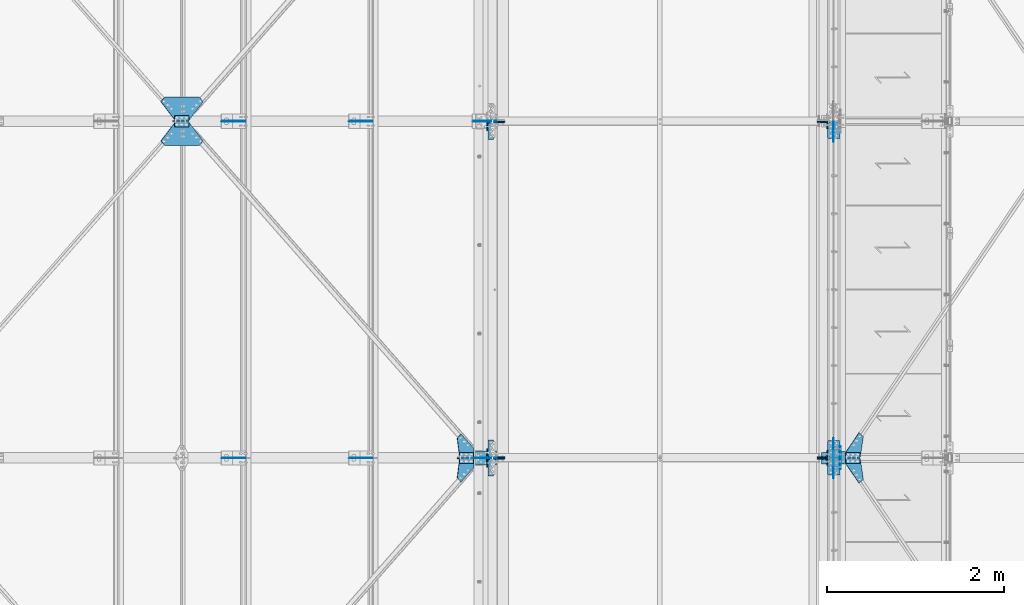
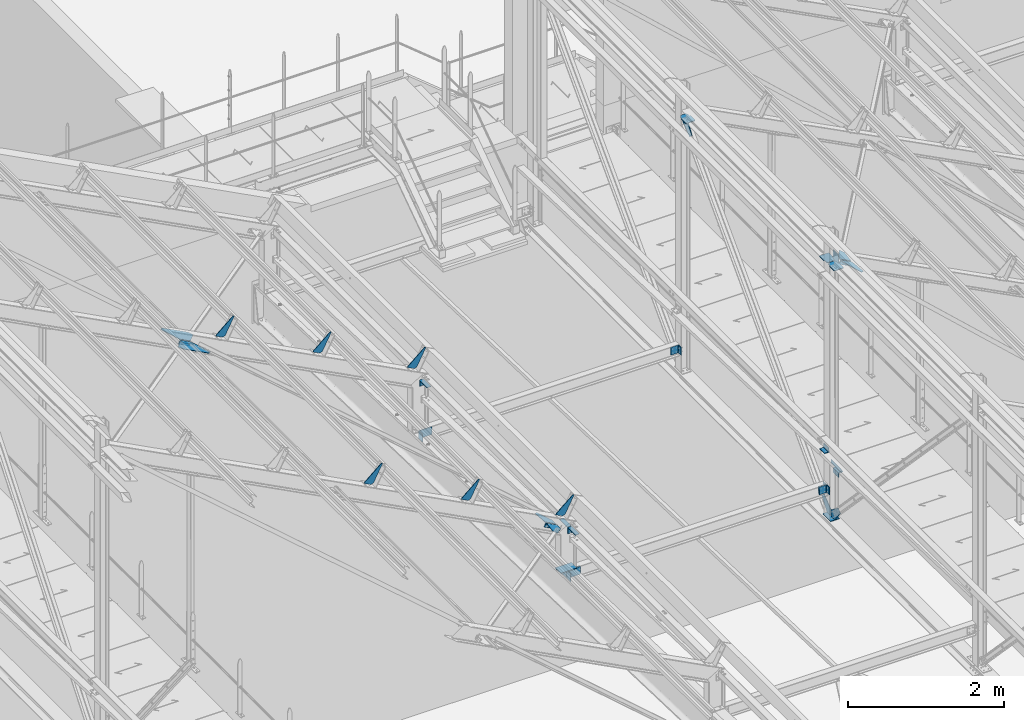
# One storey, part 90 of 362: 27 beams, 12 members, 34 elements without a shape of their own.
"""IFC2X3 building model written with IfcOpenShell, lengths in millimetres."""

import ifcopenshell
import ifcopenshell.guid

model = None  # the IFC model being written
_history = None  # IfcOwnerHistory: only IFC2X3 demands one
_inside = {}  # id of a spatial element -> (the spatial element, [elements in it])
_under = {}  # id of a project, library or spatial element -> (it, [spatial elements below it])
_declared = {}  # id of a project -> (the project, [libraries it declares])
_typed = {}  # id of a type object -> (the type object, [elements of that type])
_made_of = {}  # id of a material, layer set ... -> (it, [elements and type objects made of it])


def new_model(schema):
    """Start an empty IFC model of exactly this schema.

    Asked for "IFC4X3", IfcOpenShell would pick the latest addendum, in which some entities
    have other attributes; the version numbers below select the first issue.
    IFC2X3 requires an IfcOwnerHistory on every rooted entity: one is made here for all.
    """
    global model, _history
    if schema == "IFC4X3":
        model = ifcopenshell.file(schema_version=(4, 3, 0, 0))
    else:
        model = ifcopenshell.file(schema=schema)
    _inside.clear()
    _under.clear()
    _declared.clear()
    _typed.clear()
    _made_of.clear()
    _history = None
    if model.schema == "IFC2X3":
        org = make("IfcOrganization", Name="unknown")
        user = make(
            "IfcPersonAndOrganization",
            ThePerson=make("IfcPerson", FamilyName="unknown"),
            TheOrganization=org,
        )
        app = make(
            "IfcApplication",
            ApplicationDeveloper=org,
            Version="unknown",
            ApplicationFullName="unknown",
            ApplicationIdentifier="unknown",
        )
        _history = make(
            "IfcOwnerHistory",
            OwningUser=user,
            OwningApplication=app,
            ChangeAction="ADDED",
            CreationDate=0,
        )
    return model


def make(cls, **values):
    """One entity of the class cls with the attributes given. An attribute that is None is left unset."""
    return model.create_entity(
        cls, **{name: value for name, value in values.items() if value is not None}
    )


def rooted(cls, **values):
    """An entity with a GlobalId (a new one), such as an element, a storey or a relation."""
    return make(cls, GlobalId=ifcopenshell.guid.new(), OwnerHistory=_history, **values)


def si_unit(unit_type, name, prefix=None):
    """IfcSIUnit, for example si_unit("LENGTHUNIT", "METRE", prefix="MILLI")."""
    return make("IfcSIUnit", UnitType=unit_type, Prefix=prefix, Name=name)


def assignment(units):
    """IfcUnitAssignment: the units of a project."""
    return None if units is None else make("IfcUnitAssignment", Units=units)


def point(xyz):
    """IfcCartesianPoint."""
    return None if xyz is None else make("IfcCartesianPoint", Coordinates=xyz)


def direction(xyz):
    """IfcDirection."""
    return None if xyz is None else make("IfcDirection", DirectionRatios=xyz)


def frame(location, z_axis=None, x_axis=None):
    """IfcAxis2Placement3D, a coordinate frame: its origin and axes. An axis left out is left unset."""
    return make(
        "IfcAxis2Placement3D",
        Location=point(location),
        Axis=direction(z_axis),
        RefDirection=direction(x_axis),
    )


def frame_2d(location, x_axis=None):
    """IfcAxis2Placement2D, a coordinate frame in the plane: its origin and x axis."""
    return make(
        "IfcAxis2Placement2D", Location=point(location), RefDirection=direction(x_axis)
    )


def origin_with_axes():
    """The frame at (0, 0, 0) with the z axis (0, 0, 1) and the x axis (1, 0, 0) written out."""
    return frame((0.0, 0.0, 0.0), z_axis=(0.0, 0.0, 1.0), x_axis=(1.0, 0.0, 0.0))


def origin_2d_with_axis():
    """The frame at (0, 0) in the plane with the x axis (1, 0) written out."""
    return frame_2d((0.0, 0.0), x_axis=(1.0, 0.0))


def place(relative_to, where):
    """IfcLocalPlacement: puts the frame where relative to a parent placement (None: the world)."""
    return make(
        "IfcLocalPlacement", PlacementRelTo=relative_to, RelativePlacement=where
    )


def context(
    kind, dimensions, precision=None, world=None, true_north=None, identifier=None
):
    """IfcGeometricRepresentationContext, for example the 3D "Model" context."""
    return make(
        "IfcGeometricRepresentationContext",
        ContextIdentifier=identifier,
        ContextType=kind,
        CoordinateSpaceDimension=dimensions,
        Precision=precision,
        WorldCoordinateSystem=world,
        TrueNorth=true_north,
    )


def subcontext(parent, identifier, kind, view, scale=None):
    """IfcGeometricRepresentationSubContext, for example "Body" below "Model"."""
    return make(
        "IfcGeometricRepresentationSubContext",
        ContextIdentifier=identifier,
        ContextType=kind,
        ParentContext=parent,
        TargetScale=scale,
        TargetView=view,
    )


def project(units=None, contexts=None):
    """IfcProject with its units and contexts."""
    return rooted(
        "IfcProject",
        Name="project",
        RepresentationContexts=contexts,
        UnitsInContext=assignment(units),
    )


def spatial(cls, under=None, at=None, **own):
    """A site, building, storey or space (cls), placed at a placement, below another one or the project."""
    s = rooted(cls, ObjectPlacement=at, **own)
    if under is not None:
        _under.setdefault(under.id(), (under, []))[1].append(s)
    return s


def polyline(points):
    """IfcPolyline through the points."""
    return make("IfcPolyline", Points=[point(p) for p in points])


def circle_curve(where, radius):
    """IfcCircle in the frame where."""
    return make("IfcCircle", Position=where, Radius=radius)


def parameter(value):
    """IfcParameterValue: where a trimmed curve begins or ends, as a parameter of its basis curve."""
    return model.create_entity("IfcParameterValue", value)


def trimmed(basis, trim1, trim2, sense, master):
    """IfcTrimmedCurve: the piece of a basis curve between two trims."""
    return make(
        "IfcTrimmedCurve",
        BasisCurve=basis,
        Trim1=trim1,
        Trim2=trim2,
        SenseAgreement=sense,
        MasterRepresentation=master,
    )


def segment(curve, same_sense, transition):
    """IfcCompositeCurveSegment."""
    return make(
        "IfcCompositeCurveSegment",
        Transition=transition,
        SameSense=same_sense,
        ParentCurve=curve,
    )


def composite_curve(segments, self_intersect=None):
    """IfcCompositeCurve: segments joined end to end."""
    return make("IfcCompositeCurve", Segments=segments, SelfIntersect=self_intersect)


def profile(cls, at=None, kind="AREA", **sizes):
    """A parametric profile (cls). Its sizes go by their IFC names, for example OverallWidth=200.0."""
    return make(cls, ProfileType=kind, Position=at, **sizes)


def rectangle(**sizes):
    """IfcRectangleProfileDef."""
    return profile("IfcRectangleProfileDef", **sizes)


def l_section(**sizes):
    """IfcLShapeProfileDef."""
    return profile("IfcLShapeProfileDef", **sizes)


def outline(outer, holes=None, kind="AREA"):
    """IfcArbitraryClosedProfileDef: a profile drawn as a closed curve; with holes, ...WithVoids."""
    if holes is None:
        return make("IfcArbitraryClosedProfileDef", ProfileType=kind, OuterCurve=outer)
    return make(
        "IfcArbitraryProfileDefWithVoids",
        ProfileType=kind,
        OuterCurve=outer,
        InnerCurves=holes,
    )


def extrude(swept, where, along, depth):
    """IfcExtrudedAreaSolid: the profile swept, set in the frame where, extruded along a direction by depth."""
    return make(
        "IfcExtrudedAreaSolid",
        SweptArea=swept,
        Position=where,
        ExtrudedDirection=direction(along),
        Depth=depth,
    )


def shape(context_of_items, identifier, shape_type, items):
    """IfcShapeRepresentation: the items that make up one representation, for example the "Body"."""
    return make(
        "IfcShapeRepresentation",
        ContextOfItems=context_of_items,
        RepresentationIdentifier=identifier,
        RepresentationType=shape_type,
        Items=items,
    )


def material(Name=None, Category=None):
    """IfcMaterial."""
    return make("IfcMaterial", Name=Name, Category=Category)


def made_of(thing, what):
    """Note that an element or type object is made of a material, layer set ...; save() writes the relation."""
    if what is not None:
        _made_of.setdefault(what.id(), (what, []))[1].append(thing)
    return thing


def type_object(cls, material=None, **own):
    """A type object (cls), such as IfcWallType, which elements share."""
    return made_of(rooted(cls, **own), material)


def element(
    cls,
    number,
    at=None,
    inside=None,
    cuts=None,
    type_object=None,
    material=None,
    context=None,
    identifier="Body",
    shape_type=None,
    held_by="IfcProductDefinitionShape",
    body=None,
    shapes=None,
    **own,
):
    """One element of the class cls, such as IfcWall. Its Tag is "e" and its number.

    at: its placement. inside: the storey or other place that contains it. cuts: it is an
    opening in that element (IfcRelVoidsElement). A single representation is given by context,
    identifier, shape_type and body (its items); several are given by shapes. held_by: the class
    of the entity that holds the representations. save() writes the other relations.
    """
    e = rooted(cls, Tag="e%d" % number, ObjectPlacement=at, **own)
    if body is not None:
        shapes = [shape(context, identifier, shape_type, body)]
    if shapes is not None:
        e.Representation = make(held_by, Representations=shapes)
    if inside is not None:
        _inside.setdefault(inside.id(), (inside, []))[1].append(e)
    if cuts is not None:
        rooted(
            "IfcRelVoidsElement", RelatingBuildingElement=cuts, RelatedOpeningElement=e
        )
    if type_object is not None:
        _typed.setdefault(type_object.id(), (type_object, []))[1].append(e)
    return made_of(e, material)


def aggregate(whole, parts):
    """IfcRelAggregates: a whole, such as a stair, and the parts it consists of."""
    return rooted("IfcRelAggregates", RelatingObject=whole, RelatedObjects=parts)


def save(model, path):
    """Write the relations noted so far, then the file.

    IfcRelAggregates (storeys below a building ...), IfcRelContainedInSpatialStructure (elements
    in a storey), IfcRelDefinesByType, IfcRelAssociatesMaterial and IfcRelDeclares: one each for
    every whole, place, type object, material and project.
    """
    for whole, parts in _under.values():
        aggregate(whole, parts)
    for where, things in _inside.values():
        rooted(
            "IfcRelContainedInSpatialStructure",
            RelatedElements=things,
            RelatingStructure=where,
        )
    for kind, things in _typed.values():
        rooted("IfcRelDefinesByType", RelatedObjects=things, RelatingType=kind)
    for what, things in _made_of.values():
        rooted("IfcRelAssociatesMaterial", RelatedObjects=things, RelatingMaterial=what)
    for by, libraries in _declared.values():
        rooted("IfcRelDeclares", RelatingContext=by, RelatedDefinitions=libraries)
    model.write(path)


model = new_model("IFC2X3")

# Units and contexts
model_context = context("Model", 3, precision=1e-05, world=origin_with_axes())
body_context = subcontext(model_context, "Body", "Model", "MODEL_VIEW")
ifc_project = project(units=[si_unit("LENGTHUNIT", "METRE", prefix="MILLI"), si_unit("AREAUNIT", "SQUARE_METRE"), si_unit("VOLUMEUNIT", "CUBIC_METRE"), si_unit("MASSUNIT", "GRAM", prefix="KILO"), si_unit("TIMEUNIT", "SECOND"), si_unit("PLANEANGLEUNIT", "RADIAN"), si_unit("SOLIDANGLEUNIT", "STERADIAN"), si_unit("THERMODYNAMICTEMPERATUREUNIT", "DEGREE_CELSIUS"), si_unit("LUMINOUSINTENSITYUNIT", "LUMEN")], contexts=[model_context])

# Site, building, storey
site_placement = place(None, origin_with_axes())
site = spatial("IfcSite", under=ifc_project, at=site_placement, Name="Undefined", CompositionType="ELEMENT")
building_placement = place(site_placement, origin_with_axes())
building = spatial("IfcBuilding", under=site, at=building_placement, Name="Undefined", CompositionType="ELEMENT")
storey_placement = place(building_placement, origin_with_axes())
storey = spatial("IfcBuildingStorey", under=building, at=storey_placement, Name="Undefined", CompositionType="ELEMENT", Elevation=0.0)

# Assembly, beams
assembly_1_placement = place(storey_placement, origin_with_axes())
assembly_1 = element("IfcElementAssembly", 1, at=assembly_1_placement, inside=storey, Name="MONTANT", AssemblyPlace="NOTDEFINED", PredefinedType="NOTDEFINED")
ifc_material = material(Name="Undefined/S235-E24")
beam_type_1 = type_object("IfcBeamType", Name="TOLE8*138", PredefinedType="NOTDEFINED")
beam_1_placement = place(assembly_1_placement, frame((23470.0, 7597.25, 7360.0), z_axis=(-1.0, 0.0, 0.0), x_axis=(0.0, 0.0, -1.0)))
beam_1 = element("IfcBeam", 2, at=beam_1_placement, type_object=beam_type_1, material=ifc_material, Name="GOUSSET", ObjectType="TOLE8*138", context=body_context, shape_type="SweptSolid", body=[
    extrude(outline(polyline([(0.0, 0.0), (80.00000000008, 8.00355337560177e-11), (100.0, 20.0), (100.0, 97.25), (-79.536994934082, 233.207046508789), (-134.738418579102, 175.303649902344), (0.0, 0.0)])), frame((0.0, 0.0, -4.0), z_axis=(0.0, 0.0, 1.0), x_axis=(1.0, 0.0, 0.0)), (0.0, 0.0, 1.0), 8.0),
])
beam_2_placement = place(assembly_1_placement, frame((23470.0, 7700.0, 7260.0), z_axis=(-1.0, 0.0, 0.0), x_axis=(0.0, -1.0, 0.0)))
beam_2 = element("IfcBeam", 3, at=beam_2_placement, type_object=beam_type_1, material=ifc_material, Name="GOUSSET", ObjectType="TOLE8*138", context=body_context, shape_type="SweptSolid", body=[
    extrude(outline(polyline([(0.0, 0.0), (77.25, 0.0), (97.25, 20.0), (97.25, 100.0), (-78.0536499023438, 234.738433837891), (-135.957046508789, 179.537002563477), (0.0, 0.0)])), frame((0.0, 0.0, -4.0), z_axis=(0.0, 0.0, 1.0), x_axis=(1.0, 0.0, 0.0)), (0.0, 0.0, 1.0), 8.0),
])

# Assembly, beam
assembly_2_placement = place(storey_placement, origin_with_axes())
assembly_2 = element("IfcElementAssembly", 4, at=assembly_2_placement, inside=storey, AssemblyPlace="NOTDEFINED", PredefinedType="NOTDEFINED")
beam_type_2 = type_object("IfcBeamType", Name="L70*7", PredefinedType="NOTDEFINED")
beam_3_placement = place(assembly_2_placement, frame((23571.49994422, 7530.0, 7915.0), z_axis=(1.0, 0.0, 0.0), x_axis=(0.0, 1.0, 0.0)))
beam_3 = element("IfcBeam", 5, at=beam_3_placement, type_object=beam_type_2, material=ifc_material, Name="ATTACHE", ObjectType="L70*7", context=body_context, shape_type="SweptSolid", body=[
    extrude(l_section(Depth=70.0, Width=70.0, Thickness=7.0, FilletRadius=9.0, EdgeRadius=4.5, at=origin_2d_with_axis()), frame((140.0, 0.0, 0.0), z_axis=(-1.0, 0.0, 0.0), x_axis=(0.0, -1.0, 0.0)), (0.0, 0.0, 1.0), 140.0),
])
aggregate(assembly_2, [beam_3])

assembly_3_placement = place(storey_placement, origin_with_axes())
assembly_3 = element("IfcElementAssembly", 6, at=assembly_3_placement, inside=storey, AssemblyPlace="NOTDEFINED", PredefinedType="NOTDEFINED")
beam_4_placement = place(assembly_3_placement, frame((23368.5001163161, 7664.81291402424, 8349.41493629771), z_axis=(0.0, 0.0314135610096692, 0.999506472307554), x_axis=(0.0, -0.999506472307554, 0.031413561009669)))
beam_4 = element("IfcBeam", 7, at=beam_4_placement, type_object=beam_type_2, material=ifc_material, Name="ATTACHE", ObjectType="L70*7", context=body_context, shape_type="SweptSolid", body=[
    extrude(l_section(Depth=70.0, Width=70.0, Thickness=7.0, FilletRadius=9.0, EdgeRadius=4.5, at=origin_2d_with_axis()), frame((130.004127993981, 0.0, 9.02084851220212e-16), z_axis=(-1.0, 0.0, 0.0), x_axis=(0.0, -1.0, 0.0)), (0.0, 0.0, 1.0), 130.0),
])
aggregate(assembly_3, [beam_4])

assembly_4_placement = place(storey_placement, origin_with_axes())
assembly_4 = element("IfcElementAssembly", 8, at=assembly_4_placement, inside=storey, AssemblyPlace="NOTDEFINED", PredefinedType="NOTDEFINED")
beam_type_3 = type_object("IfcBeamType", Name="TOLE6*196", PredefinedType="NOTDEFINED")
beam_5_placement = place(assembly_4_placement, frame((19406.836386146, 7489.97764685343, 8548.85321339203), z_axis=(0.463528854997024, 6.99999093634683e-09, 0.886081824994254), x_axis=(0.0, 1.0, 0.0)))
beam_5 = element("IfcBeam", 9, at=beam_5_placement, type_object=beam_type_3, material=ifc_material, Name="GOUSSET", ObjectType="TOLE6*196", context=body_context, shape_type="SweptSolid", body=[
    extrude(outline(polyline([(0.0, 0.0), (96.5226516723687, -1.65528035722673e-10), (96.5226516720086, 180.000106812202), (-112.688667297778, 210.686050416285), (-162.033142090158, 161.036056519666), (0.0, 0.0)])), frame((0.0, 0.0, -3.0), z_axis=(0.0, 0.0, 1.0), x_axis=(1.0, 0.0, 0.0)), (0.0, 0.0, 1.0), 6.0),
])
aggregate(assembly_4, [beam_5])

assembly_5_placement = place(storey_placement, origin_with_axes())
assembly_5 = element("IfcElementAssembly", 10, at=assembly_5_placement, inside=storey, AssemblyPlace="NOTDEFINED", PredefinedType="NOTDEFINED")
beam_6_placement = place(assembly_5_placement, frame((19406.8363842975, 7613.49990180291, 8548.85321338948), z_axis=(0.463528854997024, 6.99999093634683e-09, 0.886081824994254), x_axis=(0.0, 1.0, 0.0)))
beam_6 = element("IfcBeam", 11, at=beam_6_placement, type_object=beam_type_3, material=ifc_material, Name="GOUSSET", ObjectType="TOLE6*196", context=body_context, shape_type="SweptSolid", body=[
    extrude(outline(polyline([(0.0, 0.0), (96.5224533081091, 8.87666828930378e-10), (258.555786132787, 161.036239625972), (209.211318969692, 210.686233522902), (-6.08049958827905e-07, 180.000106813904), (0.0, 0.0)])), frame((0.0, 0.0, -3.0), z_axis=(0.0, 0.0, 1.0), x_axis=(1.0, 0.0, 0.0)), (0.0, 0.0, 1.0), 6.0),
])
aggregate(assembly_5, [beam_6])

# Assembly, member
assembly_6_placement = place(storey_placement, origin_with_axes())
assembly_6 = element("IfcElementAssembly", 12, at=assembly_6_placement, inside=storey, AssemblyPlace="NOTDEFINED", PredefinedType="NOTDEFINED")
member_type_1 = type_object("IfcMemberType", Name="L60*6", PredefinedType="NOTDEFINED")
member_1_placement = place(assembly_6_placement, frame((23595.4976590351, 7567.00026493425, 11187.0657786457), z_axis=(0.0, -1.0, 0.0), x_axis=(0.887870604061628, 0.0, -0.460093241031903)))
member_1 = element("IfcMember", 13, at=member_1_placement, type_object=member_type_1, material=ifc_material, Name="ATTACHE", ObjectType="L60*6", context=body_context, shape_type="SweptSolid", body=[
    extrude(l_section(Depth=60.0, Width=60.0, Thickness=6.0, FilletRadius=8.0, EdgeRadius=4.0, at=origin_2d_with_axis()), frame((180.0, 0.0, 0.0), z_axis=(-1.0, 0.0, 0.0), x_axis=(0.0, -1.0, 0.0)), (0.0, 0.0, 1.0), 180.0),
])
aggregate(assembly_6, [member_1])

assembly_7_placement = place(storey_placement, origin_with_axes())
assembly_7 = element("IfcElementAssembly", 14, at=assembly_7_placement, inside=storey, AssemblyPlace="NOTDEFINED", PredefinedType="NOTDEFINED")
member_2_placement = place(assembly_7_placement, frame((23755.3143701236, 7633.00006280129, 11104.2490022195), z_axis=(0.0, 1.0, 0.0), x_axis=(-0.887870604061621, -1.29999898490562e-08, 0.460093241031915)))
member_2 = element("IfcMember", 15, at=member_2_placement, type_object=member_type_1, material=ifc_material, Name="ATTACHE", ObjectType="L60*6", context=body_context, shape_type="SweptSolid", body=[
    extrude(l_section(Depth=60.0, Width=60.0, Thickness=6.0, FilletRadius=8.0, EdgeRadius=4.0, at=origin_2d_with_axis()), frame((180.0, 0.0, 0.0), z_axis=(-1.0, 0.0, 0.0), x_axis=(0.0, -1.0, 0.0)), (0.0, 0.0, 1.0), 180.0),
])
aggregate(assembly_7, [member_2])

assembly_8_placement = place(storey_placement, origin_with_axes())
assembly_8 = element("IfcElementAssembly", 16, at=assembly_8_placement, inside=storey, AssemblyPlace="NOTDEFINED", PredefinedType="NOTDEFINED")
member_3_placement = place(assembly_8_placement, frame((16018.5622548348, 11366.5001509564, 10284.0892447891), z_axis=(0.0, -1.0, 0.0), x_axis=(0.886081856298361, 3.500000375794e-08, -0.463528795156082)))
member_3 = element("IfcMember", 17, at=member_3_placement, type_object=member_type_1, material=ifc_material, Name="ATTACHE", ObjectType="L60*6", context=body_context, shape_type="SweptSolid", body=[
    extrude(l_section(Depth=60.0, Width=60.0, Thickness=6.0, FilletRadius=8.0, EdgeRadius=4.0, at=origin_2d_with_axis()), frame((180.0, 0.0, 0.0), z_axis=(-1.0, 0.0, 0.0), x_axis=(0.0, -1.0, 0.0)), (0.0, 0.0, 1.0), 180.0),
])
aggregate(assembly_8, [member_3])

assembly_9_placement = place(storey_placement, origin_with_axes())
assembly_9 = element("IfcElementAssembly", 18, at=assembly_9_placement, inside=storey, AssemblyPlace="NOTDEFINED", PredefinedType="NOTDEFINED")
member_4_placement = place(assembly_9_placement, frame((16178.0569880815, 11433.49994843, 10200.6540620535), z_axis=(0.0, 1.0, 0.0), x_axis=(-0.886081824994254, 0.0, 0.463528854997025)))
member_4 = element("IfcMember", 19, at=member_4_placement, type_object=member_type_1, material=ifc_material, Name="ATTACHE", ObjectType="L60*6", context=body_context, shape_type="SweptSolid", body=[
    extrude(l_section(Depth=60.0, Width=60.0, Thickness=6.0, FilletRadius=8.0, EdgeRadius=4.0, at=origin_2d_with_axis()), frame((180.0, 0.0, 0.0), z_axis=(-1.0, 0.0, 0.0), x_axis=(0.0, -1.0, 0.0)), (0.0, 0.0, 1.0), 180.0),
])
aggregate(assembly_9, [member_4])

assembly_10_placement = place(storey_placement, origin_with_axes())
assembly_10 = element("IfcElementAssembly", 20, at=assembly_10_placement, inside=storey, AssemblyPlace="NOTDEFINED", PredefinedType="NOTDEFINED")
member_5_placement = place(assembly_10_placement, frame((19232.0450953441, 7566.50029561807, 8603.04770510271), z_axis=(0.0, -1.0, 0.0), x_axis=(0.886081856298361, 3.500000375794e-08, -0.463528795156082)))
member_5 = element("IfcMember", 21, at=member_5_placement, type_object=member_type_1, material=ifc_material, Name="ATTACHE", ObjectType="L60*6", context=body_context, shape_type="SweptSolid", body=[
    extrude(l_section(Depth=60.0, Width=60.0, Thickness=6.0, FilletRadius=8.0, EdgeRadius=4.0, at=origin_2d_with_axis()), frame((180.0, 0.0, 0.0), z_axis=(-1.0, 0.0, 0.0), x_axis=(0.0, -1.0, 0.0)), (0.0, 0.0, 1.0), 180.0),
])
aggregate(assembly_10, [member_5])

assembly_11_placement = place(storey_placement, origin_with_axes())
assembly_11 = element("IfcElementAssembly", 22, at=assembly_11_placement, inside=storey, AssemblyPlace="NOTDEFINED", PredefinedType="NOTDEFINED")
member_6_placement = place(assembly_11_placement, frame((19391.5398285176, 7633.49989982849, 8519.61252240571), z_axis=(0.0, 1.0, 0.0), x_axis=(-0.886081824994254, 0.0, 0.463528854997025)))
member_6 = element("IfcMember", 23, at=member_6_placement, type_object=member_type_1, material=ifc_material, Name="ATTACHE", ObjectType="L60*6", context=body_context, shape_type="SweptSolid", body=[
    extrude(l_section(Depth=60.0, Width=60.0, Thickness=6.0, FilletRadius=8.0, EdgeRadius=4.0, at=origin_2d_with_axis()), frame((180.0, 0.0, 0.0), z_axis=(-1.0, 0.0, 0.0), x_axis=(0.0, -1.0, 0.0)), (0.0, 0.0, 1.0), 180.0),
])
aggregate(assembly_11, [member_6])

# Assembly, beam
assembly_12_placement = place(storey_placement, origin_with_axes())
assembly_12 = element("IfcElementAssembly", 24, at=assembly_12_placement, inside=storey, Name="PANNE SHED", AssemblyPlace="NOTDEFINED", PredefinedType="NOTDEFINED")
beam_type_4 = type_object("IfcBeamType", Name="TOLE8*140", PredefinedType="NOTDEFINED")
beam_7_placement = place(assembly_12_placement, frame((19667.0878027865, 11400.0, 8923.94974997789), z_axis=(0.0, -1.0, 0.0), x_axis=(-0.886081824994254, 0.0, 0.463528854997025)))
beam_7 = element("IfcBeam", 25, at=beam_7_placement, type_object=beam_type_4, material=ifc_material, Name="RAIDISSEUR", ObjectType="TOLE8*140", context=body_context, shape_type="SweptSolid", body=[
    extrude(outline(polyline([(0.0, 0.0), (19.9999999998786, -3.63797880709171e-12), (140.000030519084, 299.999999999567), (140.000030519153, 319.999999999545), (30.0000147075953, 319.999999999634), (0.0, 290.0), (0.0, 0.0)])), frame((0.0, 0.0, -4.0), z_axis=(0.0, 0.0, 1.0), x_axis=(1.0, 0.0, 0.0)), (0.0, 0.0, 1.0), 8.0),
])
aggregate(assembly_12, [beam_7])

assembly_13_placement = place(storey_placement, origin_with_axes())
assembly_13 = element("IfcElementAssembly", 26, at=assembly_13_placement, inside=storey, Name="PANNE SHED", AssemblyPlace="NOTDEFINED", PredefinedType="NOTDEFINED")
beam_8_placement = place(assembly_13_placement, frame((18269.6614730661, 11400.0, 9654.97325100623), z_axis=(0.0, -1.0, 0.0), x_axis=(-0.886081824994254, 0.0, 0.463528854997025)))
beam_8 = element("IfcBeam", 27, at=beam_8_placement, type_object=beam_type_4, material=ifc_material, Name="RAIDISSEUR", ObjectType="TOLE8*140", context=body_context, shape_type="SweptSolid", body=[
    extrude(outline(polyline([(0.0, 0.0), (19.9999999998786, -3.63797880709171e-12), (140.000030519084, 299.999999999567), (140.000030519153, 319.999999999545), (30.0000147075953, 319.999999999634), (0.0, 290.0), (0.0, 0.0)])), frame((0.0, 0.0, -4.0), z_axis=(0.0, 0.0, 1.0), x_axis=(1.0, 0.0, 0.0)), (0.0, 0.0, 1.0), 8.0),
])
aggregate(assembly_13, [beam_8])

assembly_14_placement = place(storey_placement, origin_with_axes())
assembly_14 = element("IfcElementAssembly", 28, at=assembly_14_placement, inside=storey, Name="PANNE SHED", AssemblyPlace="NOTDEFINED", PredefinedType="NOTDEFINED")
beam_9_placement = place(assembly_14_placement, frame((16832.361407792, 11400.0, 10406.855553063), z_axis=(0.0, -1.0, 0.0), x_axis=(-0.886081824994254, 0.0, 0.463528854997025)))
beam_9 = element("IfcBeam", 29, at=beam_9_placement, type_object=beam_type_4, material=ifc_material, Name="RAIDISSEUR", ObjectType="TOLE8*140", context=body_context, shape_type="SweptSolid", body=[
    extrude(outline(polyline([(0.0, 0.0), (19.9999999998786, -3.63797880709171e-12), (140.000030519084, 299.999999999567), (140.000030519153, 319.999999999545), (30.0000147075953, 319.999999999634), (0.0, 290.0), (0.0, 0.0)])), frame((0.0, 0.0, -4.0), z_axis=(0.0, 0.0, 1.0), x_axis=(1.0, 0.0, 0.0)), (0.0, 0.0, 1.0), 8.0),
])
aggregate(assembly_14, [beam_9])

assembly_15_placement = place(storey_placement, origin_with_axes())
assembly_15 = element("IfcElementAssembly", 30, at=assembly_15_placement, inside=storey, Name="PANNE SHED", AssemblyPlace="NOTDEFINED", PredefinedType="NOTDEFINED")
beam_10_placement = place(assembly_15_placement, frame((19667.0878027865, 7600.0, 8923.94974997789), z_axis=(0.0, -1.0, 0.0), x_axis=(-0.886081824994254, 0.0, 0.463528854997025)))
beam_10 = element("IfcBeam", 31, at=beam_10_placement, type_object=beam_type_4, material=ifc_material, Name="RAIDISSEUR", ObjectType="TOLE8*140", context=body_context, shape_type="SweptSolid", body=[
    extrude(outline(polyline([(0.0, 0.0), (19.9999999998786, -3.63797880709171e-12), (140.000030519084, 299.999999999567), (140.000030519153, 319.999999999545), (30.0000147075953, 319.999999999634), (0.0, 290.0), (0.0, 0.0)])), frame((0.0, 0.0, -4.0), z_axis=(0.0, 0.0, 1.0), x_axis=(1.0, 0.0, 0.0)), (0.0, 0.0, 1.0), 8.0),
])
aggregate(assembly_15, [beam_10])

assembly_16_placement = place(storey_placement, origin_with_axes())
assembly_16 = element("IfcElementAssembly", 32, at=assembly_16_placement, inside=storey, Name="PANNE SHED", AssemblyPlace="NOTDEFINED", PredefinedType="NOTDEFINED")
beam_11_placement = place(assembly_16_placement, frame((18269.6614730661, 7600.0, 9654.97325100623), z_axis=(0.0, -1.0, 0.0), x_axis=(-0.886081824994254, 0.0, 0.463528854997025)))
beam_11 = element("IfcBeam", 33, at=beam_11_placement, type_object=beam_type_4, material=ifc_material, Name="RAIDISSEUR", ObjectType="TOLE8*140", context=body_context, shape_type="SweptSolid", body=[
    extrude(outline(polyline([(0.0, 0.0), (19.9999999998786, -3.63797880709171e-12), (140.000030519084, 299.999999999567), (140.000030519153, 319.999999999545), (30.0000147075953, 319.999999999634), (0.0, 290.0), (0.0, 0.0)])), frame((0.0, 0.0, -4.0), z_axis=(0.0, 0.0, 1.0), x_axis=(1.0, 0.0, 0.0)), (0.0, 0.0, 1.0), 8.0),
])
aggregate(assembly_16, [beam_11])

assembly_17_placement = place(storey_placement, origin_with_axes())
assembly_17 = element("IfcElementAssembly", 34, at=assembly_17_placement, inside=storey, Name="PANNE SHED", AssemblyPlace="NOTDEFINED", PredefinedType="NOTDEFINED")
beam_12_placement = place(assembly_17_placement, frame((16832.361407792, 7600.0, 10406.855553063), z_axis=(0.0, -1.0, 0.0), x_axis=(-0.886081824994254, 0.0, 0.463528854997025)))
beam_12 = element("IfcBeam", 35, at=beam_12_placement, type_object=beam_type_4, material=ifc_material, Name="RAIDISSEUR", ObjectType="TOLE8*140", context=body_context, shape_type="SweptSolid", body=[
    extrude(outline(polyline([(0.0, 0.0), (19.9999999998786, -3.63797880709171e-12), (140.000030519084, 299.999999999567), (140.000030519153, 319.999999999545), (30.0000147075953, 319.999999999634), (0.0, 290.0), (0.0, 0.0)])), frame((0.0, 0.0, -4.0), z_axis=(0.0, 0.0, 1.0), x_axis=(1.0, 0.0, 0.0)), (0.0, 0.0, 1.0), 8.0),
])
aggregate(assembly_17, [beam_12])

assembly_18_placement = place(storey_placement, origin_with_axes())
assembly_18 = element("IfcElementAssembly", 36, at=assembly_18_placement, inside=storey, AssemblyPlace="NOTDEFINED", PredefinedType="NOTDEFINED")
beam_type_5 = type_object("IfcBeamType", Name="TOLE6*178", PredefinedType="NOTDEFINED")
beam_13_placement = place(assembly_18_placement, frame((23805.2587482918, 7357.11406054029, 11115.5355715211), z_axis=(-0.460093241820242, 0.0, -0.887870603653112), x_axis=(-0.706117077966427, -0.606225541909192, 0.365908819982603)))
beam_13 = element("IfcBeam", 37, at=beam_13_placement, type_object=beam_type_5, material=ifc_material, Name="GOUSSET", ObjectType="TOLE6*178", context=body_context, shape_type="SweptSolid", body=[
    extrude(outline(polyline([(0.0, 0.0), (70.0, 0.0), (70.0000000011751, 269.669891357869), (34.9265289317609, 315.681945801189), (-108.226165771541, 206.561325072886), (0.0, 0.0)])), frame((0.0, 0.0, -3.0), z_axis=(0.0, 0.0, 1.0), x_axis=(1.0, 0.0, 0.0)), (0.0, 0.0, 1.0), 6.0),
])
aggregate(assembly_18, [beam_13])

assembly_19_placement = place(storey_placement, origin_with_axes())
assembly_19 = element("IfcElementAssembly", 38, at=assembly_19_placement, inside=storey, AssemblyPlace="NOTDEFINED", PredefinedType="NOTDEFINED")
beam_14_placement = place(assembly_19_placement, frame((23805.2587424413, 7842.88627234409, 11115.5355715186), z_axis=(0.460093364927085, 0.0, 0.887870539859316), x_axis=(-0.70611707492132, 0.606225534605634, 0.365908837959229)))
beam_14 = element("IfcBeam", 39, at=beam_14_placement, type_object=beam_type_5, material=ifc_material, Name="GOUSSET", ObjectType="TOLE6*178", context=body_context, shape_type="SweptSolid", body=[
    extrude(outline(polyline([(0.0, 0.0), (70.0, 0.0), (70.0000000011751, 269.669891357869), (34.9265289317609, 315.681945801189), (-108.226165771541, 206.561325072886), (0.0, 0.0)])), frame((0.0, 0.0, -3.0), z_axis=(0.0, 0.0, 1.0), x_axis=(1.0, 0.0, 0.0)), (0.0, 0.0, 1.0), 6.0),
])
aggregate(assembly_19, [beam_14])

assembly_20_placement = place(storey_placement, origin_with_axes())
assembly_20 = element("IfcElementAssembly", 40, at=assembly_20_placement, inside=storey, AssemblyPlace="NOTDEFINED", PredefinedType="NOTDEFINED")
beam_type_6 = type_object("IfcBeamType", Name="TOLE6*259", PredefinedType="NOTDEFINED")
beam_15_placement = place(assembly_20_placement, frame((16193.353466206, 11386.5002541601, 10229.894824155), z_axis=(0.463528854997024, 6.99999093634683e-09, 0.886081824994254), x_axis=(-0.886082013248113, 9.38091927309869e-07, 0.463528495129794)))
beam_15 = element("IfcBeam", 41, at=beam_15_placement, type_object=beam_type_6, material=ifc_material, Name="GOUSSET", ObjectType="TOLE6*259", context=body_context, shape_type="SweptSolid", body=[
    extrude(outline(polyline([(0.0, 0.0), (180.000000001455, -5.27506927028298e-10), (360.682250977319, 209.211318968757), (311.032257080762, 258.555816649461), (-131.039749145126, 258.555816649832), (-180.689758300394, 209.211318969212), (0.0, 0.0)])), frame((0.0, 0.0, -3.0), z_axis=(0.0, 0.0, 1.0), x_axis=(1.0, 0.0, 0.0)), (0.0, 0.0, 1.0), 6.0),
])
aggregate(assembly_20, [beam_15])

assembly_21_placement = place(storey_placement, origin_with_axes())
assembly_21 = element("IfcElementAssembly", 42, at=assembly_21_placement, inside=storey, AssemblyPlace="NOTDEFINED", PredefinedType="NOTDEFINED")
beam_16_placement = place(assembly_21_placement, frame((16193.3534658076, 11413.4998546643, 10229.8948241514), z_axis=(0.463528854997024, 6.99999093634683e-09, 0.886081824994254), x_axis=(0.57917434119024, 0.756809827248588, -0.30297849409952)))
beam_16 = element("IfcBeam", 43, at=beam_16_placement, type_object=beam_type_6, material=ifc_material, Name="GOUSSET", ObjectType="TOLE6*259", context=body_context, shape_type="SweptSolid", body=[
    extrude(outline(polyline([(0.0, 0.0), (276.438415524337, -9.24046617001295e-10), (281.329833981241, 69.8288879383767), (-7.62410307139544, 404.393493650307), (-77.4214782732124, 409.715789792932), (-117.65432739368, 136.225769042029), (0.0, 0.0)])), frame((0.0, 0.0, -3.0), z_axis=(0.0, 0.0, 1.0), x_axis=(1.0, 0.0, 0.0)), (0.0, 0.0, 1.0), 6.0),
])
aggregate(assembly_21, [beam_16])

# Assembly, member
assembly_22_placement = place(storey_placement, origin_with_axes())
assembly_22 = element("IfcElementAssembly", 44, at=assembly_22_placement, inside=storey, AssemblyPlace="NOTDEFINED", PredefinedType="NOTDEFINED")
member_type_2 = type_object("IfcMemberType", Name="L200*100*10", PredefinedType="NOTDEFINED")
member_7_placement = place(assembly_22_placement, frame((19656.0000000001, 11348.9163896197, 7663.33131201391), z_axis=(1.0, 0.0, 0.0), x_axis=(-1.05403257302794e-09, -0.0314112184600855, -0.999506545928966)))
member_7 = element("IfcMember", 45, at=member_7_placement, type_object=member_type_2, material=ifc_material, Name="ATTACHE", ObjectType="L200*100*10", context=body_context, shape_type="SweptSolid", body=[
    extrude(l_section(Depth=200.0, Width=100.0, Thickness=10.0, FilletRadius=15.0, EdgeRadius=7.5, at=origin_2d_with_axis()), frame((120.0, 0.0, 0.0), z_axis=(-1.0, 0.0, 0.0), x_axis=(0.0, -1.0, 0.0)), (0.0, 0.0, 1.0), 120.0),
])
aggregate(assembly_22, [member_7])

assembly_23_placement = place(storey_placement, origin_with_axes())
assembly_23 = element("IfcElementAssembly", 46, at=assembly_23_placement, inside=storey, AssemblyPlace="NOTDEFINED", PredefinedType="NOTDEFINED")
member_8_placement = place(assembly_23_placement, frame((19656.0000000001, 7651.09559858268, 7659.48072103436), z_axis=(1.0, 0.0, 0.0), x_axis=(7.58071938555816e-11, 0.0314107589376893, 0.999506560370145)))
member_8 = element("IfcMember", 47, at=member_8_placement, type_object=member_type_2, material=ifc_material, Name="ATTACHE", ObjectType="L200*100*10", context=body_context, shape_type="SweptSolid", body=[
    extrude(l_section(Depth=200.0, Width=100.0, Thickness=10.0, FilletRadius=15.0, EdgeRadius=7.5, at=origin_2d_with_axis()), frame((120.0, 0.0, 0.0), z_axis=(-1.0, 0.0, 0.0), x_axis=(0.0, -1.0, 0.0)), (0.0, 0.0, 1.0), 120.0),
])
aggregate(assembly_23, [member_8])

assembly_24_placement = place(storey_placement, origin_with_axes())
assembly_24 = element("IfcElementAssembly", 48, at=assembly_24_placement, inside=storey, AssemblyPlace="NOTDEFINED", PredefinedType="NOTDEFINED")
member_9_placement = place(assembly_24_placement, frame((19656.0000000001, 7548.91638901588, 7782.75112274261), z_axis=(1.0, 0.0, 0.0), x_axis=(-1.05403257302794e-09, -0.0314112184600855, -0.999506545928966)))
member_9 = element("IfcMember", 49, at=member_9_placement, type_object=member_type_2, material=ifc_material, Name="ATTACHE", ObjectType="L200*100*10", context=body_context, shape_type="SweptSolid", body=[
    extrude(l_section(Depth=200.0, Width=100.0, Thickness=10.0, FilletRadius=15.0, EdgeRadius=7.5, at=origin_2d_with_axis()), frame((120.0, 0.0, 0.0), z_axis=(-1.0, 0.0, 0.0), x_axis=(0.0, -1.0, 0.0)), (0.0, 0.0, 1.0), 120.0),
])
aggregate(assembly_24, [member_9])

# Beam
beam_type_7 = type_object("IfcBeamType", Name="PL10*133", PredefinedType="NOTDEFINED")
beam_17_placement = place(assembly_1_placement, frame((23470.0, 7700.00000000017, 7255.00000000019), z_axis=(1.0, 0.0, 0.0), x_axis=(0.0, -1.0, 0.0)))
beam_17 = element("IfcBeam", 50, at=beam_17_placement, type_object=beam_type_7, material=ifc_material, Name="PLATINE", ObjectType="PL10*133", context=body_context, shape_type="SweptSolid", body=[
    extrude(rectangle(XDim=10.0, YDim=133.0, at=origin_2d_with_axis()), frame((200.0, 0.0, 0.0), z_axis=(-1.0, 0.0, 0.0), x_axis=(0.0, -1.0, 0.0)), (0.0, 0.0, 1.0), 200.0),
])

# Assembly, beam
assembly_25_placement = place(storey_placement, origin_with_axes())
assembly_25 = element("IfcElementAssembly", 51, at=assembly_25_placement, inside=storey, AssemblyPlace="NOTDEFINED", PredefinedType="NOTDEFINED")
beam_type_8 = type_object("IfcBeamType", Name="L200*100*10", PredefinedType="NOTDEFINED")
beam_18_placement = place(assembly_25_placement, frame((19569.9999999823, 11296.5, 8400.0), z_axis=(0.0, -1.0, 0.0), x_axis=(1.0, 0.0, 0.0)))
beam_18 = element("IfcBeam", 52, at=beam_18_placement, type_object=beam_type_8, material=ifc_material, Name="ATTACHE", ObjectType="L200*100*10", context=body_context, shape_type="SweptSolid", body=[
    extrude(l_section(Depth=200.0, Width=100.0, Thickness=10.0, FilletRadius=15.0, EdgeRadius=7.5, at=origin_2d_with_axis()), frame((60.0, 0.0, 0.0), z_axis=(-1.0, 0.0, 0.0), x_axis=(0.0, -1.0, 0.0)), (0.0, 0.0, 1.0), 60.0),
])
aggregate(assembly_25, [beam_18])

assembly_26_placement = place(storey_placement, origin_with_axes())
assembly_26 = element("IfcElementAssembly", 53, at=assembly_26_placement, inside=storey, AssemblyPlace="NOTDEFINED", PredefinedType="NOTDEFINED")
beam_19_placement = place(assembly_26_placement, frame((19629.9999999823, 7703.5, 8400.0), z_axis=(0.0, 1.0, 0.0), x_axis=(-1.0, 0.0, 0.0)))
beam_19 = element("IfcBeam", 54, at=beam_19_placement, type_object=beam_type_8, material=ifc_material, Name="ATTACHE", ObjectType="L200*100*10", context=body_context, shape_type="SweptSolid", body=[
    extrude(l_section(Depth=200.0, Width=100.0, Thickness=10.0, FilletRadius=15.0, EdgeRadius=7.5, at=origin_2d_with_axis()), frame((60.0, 0.0, 0.0), z_axis=(-1.0, 0.0, 0.0), x_axis=(0.0, -1.0, 0.0)), (0.0, 0.0, 1.0), 60.0),
])
aggregate(assembly_26, [beam_19])

assembly_27_placement = place(storey_placement, origin_with_axes())
assembly_27 = element("IfcElementAssembly", 55, at=assembly_27_placement, inside=storey, AssemblyPlace="NOTDEFINED", PredefinedType="NOTDEFINED")
beam_20_placement = place(assembly_27_placement, frame((19569.9999999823, 7496.5, 8400.0), z_axis=(0.0, -1.0, 0.0), x_axis=(1.0, 0.0, 0.0)))
beam_20 = element("IfcBeam", 56, at=beam_20_placement, type_object=beam_type_8, material=ifc_material, Name="ATTACHE", ObjectType="L200*100*10", context=body_context, shape_type="SweptSolid", body=[
    extrude(l_section(Depth=200.0, Width=100.0, Thickness=10.0, FilletRadius=15.0, EdgeRadius=7.5, at=origin_2d_with_axis()), frame((60.0, 0.0, 0.0), z_axis=(-1.0, 0.0, 0.0), x_axis=(0.0, -1.0, 0.0)), (0.0, 0.0, 1.0), 60.0),
])
aggregate(assembly_27, [beam_20])

assembly_28_placement = place(storey_placement, origin_with_axes())
assembly_28 = element("IfcElementAssembly", 57, at=assembly_28_placement, inside=storey, AssemblyPlace="NOTDEFINED", PredefinedType="NOTDEFINED")
beam_type_9 = type_object("IfcBeamType", Name="TOLE6*60", PredefinedType="NOTDEFINED")
beam_21_placement = place(assembly_28_placement, frame((23544.9918295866, 7470.0, 7985.0), z_axis=(-1.0, 0.0, 0.0), x_axis=(0.0, 0.0, 1.0)))
beam_21 = element("IfcBeam", 58, at=beam_21_placement, type_object=beam_type_9, material=ifc_material, Name="PLATINE", ObjectType="TOLE6*60", context=body_context, shape_type="SweptSolid", body=[
    extrude(outline(polyline([(0.0, 0.0), (60.0, 0.0), (60.0, 260.0), (0.0, 260.0), (0.0, 0.0)])), frame((0.0, 0.0, -3.0), z_axis=(0.0, 0.0, 1.0), x_axis=(1.0, 0.0, 0.0)), (0.0, 0.0, 1.0), 6.0),
])
aggregate(assembly_28, [beam_21])

assembly_29_placement = place(storey_placement, origin_with_axes())
assembly_29 = element("IfcElementAssembly", 59, at=assembly_29_placement, inside=storey, Name="TRAVERSE SHED", AssemblyPlace="NOTDEFINED", PredefinedType="NOTDEFINED")
beam_type_10 = type_object("IfcBeamType", Name="PL10*140", PredefinedType="NOTDEFINED")
beam_22_placement = place(assembly_29_placement, frame((23541.5, 7600.0, 11360.8449760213), z_axis=(0.0, -1.0, 0.0), x_axis=(0.0, 0.0, -1.0)))
beam_22 = element("IfcBeam", 60, at=beam_22_placement, type_object=beam_type_10, material=ifc_material, Name="PLATINE", ObjectType="PL10*140", context=body_context, shape_type="SweptSolid", body=[
    extrude(rectangle(XDim=10.0, YDim=140.0, at=origin_2d_with_axis()), frame((215.684581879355, 0.0, 0.0), z_axis=(-1.0, 0.0, 0.0), x_axis=(0.0, -1.0, 0.0)), (0.0, 0.0, 1.0), 215.68),
])
aggregate(assembly_29, [beam_22])

assembly_30_placement = place(storey_placement, origin_with_axes())
assembly_30 = element("IfcElementAssembly", 61, at=assembly_30_placement, inside=storey, Name="TRAVERSE SHED", AssemblyPlace="NOTDEFINED", PredefinedType="NOTDEFINED")
beam_type_11 = type_object("IfcBeamType", Name="PL10*240", PredefinedType="NOTDEFINED")
beam_23_placement = place(assembly_30_placement, frame((19550.0, 7674.80562184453, 7813.81292929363), z_axis=(-1.0, 0.0, 0.0), x_axis=(0.0, -0.999506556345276, 0.031410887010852)))
beam_23 = element("IfcBeam", 62, at=beam_23_placement, type_object=beam_type_11, material=ifc_material, Name="PLATINE", ObjectType="PL10*240", context=body_context, shape_type="SweptSolid", body=[
    extrude(rectangle(XDim=10.0, YDim=240.0, at=origin_2d_with_axis()), frame((150.0, 0.0, 0.0), z_axis=(-1.0, 0.0, 0.0), x_axis=(0.0, -1.0, 0.0)), (0.0, 0.0, 1.0), 150.0),
])
aggregate(assembly_30, [beam_23])

# Assembly, member
assembly_31_placement = place(storey_placement, origin_with_axes())
assembly_31 = element("IfcElementAssembly", 63, at=assembly_31_placement, inside=storey, AssemblyPlace="NOTDEFINED", PredefinedType="NOTDEFINED")
member_type_3 = type_object("IfcMemberType", Name="L120*80*10", PredefinedType="NOTDEFINED")
member_10_placement = place(assembly_31_placement, frame((23343.5000000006, 11355.1365857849, 7543.07637633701), z_axis=(-1.0, 0.0, 0.0), x_axis=(7.58071938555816e-11, 0.0314107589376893, 0.999506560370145)))
member_10 = element("IfcMember", 64, at=member_10_placement, type_object=member_type_3, material=ifc_material, Name="ATTACHE", ObjectType="L120*80*10", context=body_context, shape_type="SweptSolid", body=[
    extrude(l_section(Depth=120.0, Width=80.0, Thickness=10.0, FilletRadius=11.0, EdgeRadius=5.5, at=origin_2d_with_axis()), frame((120.0, 0.0, 0.0), z_axis=(-1.0, 0.0, 0.0), x_axis=(0.0, -1.0, 0.0)), (0.0, 0.0, 1.0), 120.0),
])
aggregate(assembly_31, [member_10])

assembly_32_placement = place(storey_placement, origin_with_axes())
assembly_32 = element("IfcElementAssembly", 65, at=assembly_32_placement, inside=storey, AssemblyPlace="NOTDEFINED", PredefinedType="NOTDEFINED")
member_11_placement = place(assembly_32_placement, frame((23343.5000000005, 7644.86435676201, 7779.73559973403), z_axis=(-1.0, 0.0, 0.0), x_axis=(-1.05403257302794e-09, -0.0314112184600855, -0.999506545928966)))
member_11 = element("IfcMember", 66, at=member_11_placement, type_object=member_type_3, material=ifc_material, Name="ATTACHE", ObjectType="L120*80*10", context=body_context, shape_type="SweptSolid", body=[
    extrude(l_section(Depth=120.0, Width=80.0, Thickness=10.0, FilletRadius=11.0, EdgeRadius=5.5, at=origin_2d_with_axis()), frame((120.0, 0.0, 0.0), z_axis=(-1.0, 0.0, 0.0), x_axis=(0.0, -1.0, 0.0)), (0.0, 0.0, 1.0), 120.0),
])
aggregate(assembly_32, [member_11])

assembly_33_placement = place(storey_placement, origin_with_axes())
assembly_33 = element("IfcElementAssembly", 67, at=assembly_33_placement, inside=storey, AssemblyPlace="NOTDEFINED", PredefinedType="NOTDEFINED")
member_12_placement = place(assembly_33_placement, frame((23343.5000000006, 7555.13658578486, 7662.49620605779), z_axis=(-1.0, 0.0, 0.0), x_axis=(7.58071938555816e-11, 0.0314107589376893, 0.999506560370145)))
member_12 = element("IfcMember", 68, at=member_12_placement, type_object=member_type_3, material=ifc_material, Name="ATTACHE", ObjectType="L120*80*10", context=body_context, shape_type="SweptSolid", body=[
    extrude(l_section(Depth=120.0, Width=80.0, Thickness=10.0, FilletRadius=11.0, EdgeRadius=5.5, at=origin_2d_with_axis()), frame((120.0, 0.0, 0.0), z_axis=(-1.0, 0.0, 0.0), x_axis=(0.0, -1.0, 0.0)), (0.0, 0.0, 1.0), 120.0),
])
aggregate(assembly_33, [member_12])

# Beam
beam_type_12 = type_object("IfcBeamType", Name="TOLE10*192", PredefinedType="NOTDEFINED")
beam_24_placement = place(assembly_1_placement, frame((23403.5, 7404.99692211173, 11231.0), z_axis=(0.0, 0.0, -1.0), x_axis=(0.0, 1.0, 0.0)))
beam_24 = element("IfcBeam", 69, at=beam_24_placement, type_object=beam_type_12, material=ifc_material, Name="PLAT", ObjectType="TOLE10*192", context=body_context, shape_type="SweptSolid", body=[
    extrude(outline(composite_curve([segment(trimmed(circle_curve(frame_2d((10.0, 10.0), x_axis=(-1.0, 0.0)), 10.0), [parameter(0.0)], [parameter(1.5707963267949)], True, "PARAMETER"), True, "CONTINUOUS"), segment(polyline([(9.99999999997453, 6.91215973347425e-11), (124.5, 0.0), (124.5, 9.0), (172.25, 9.0), (192.25, 29.0), (192.25, 104.0), (172.25, 124.0), (124.0, 124.0), (124.0, 140.0), (10.0, 140.0)]), True, "CONTINUOUS"), segment(trimmed(circle_curve(frame_2d((10.0, 130.0), x_axis=(0.0, 1.0)), 10.0), [parameter(0.0)], [parameter(1.5707963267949)], True, "PARAMETER"), True, "CONTINUOUS"), segment(polyline([(0.0, 130.0), (-1.81898940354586e-10, 10.0000000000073)]), True, "CONTINUOUS")], self_intersect=True)), frame((0.0, 0.0, -5.0), z_axis=(0.0, 0.0, 1.0), x_axis=(1.0, 0.0, 0.0)), (0.0, 0.0, 1.0), 10.0),
])

beam_25_placement = place(assembly_1_placement, frame((23403.5, 7795.0, 11231.0), z_axis=(0.0, 0.0, 1.0), x_axis=(0.0, -1.0, 0.0)))
beam_25 = element("IfcBeam", 70, at=beam_25_placement, type_object=beam_type_12, material=ifc_material, Name="PLAT", ObjectType="TOLE10*192", context=body_context, shape_type="SweptSolid", body=[
    extrude(outline(composite_curve([segment(trimmed(circle_curve(frame_2d((10.0, 10.0), x_axis=(-1.0, 0.0)), 10.0), [parameter(0.0)], [parameter(1.5707963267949)], True, "PARAMETER"), True, "CONTINUOUS"), segment(polyline([(9.99999999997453, 6.91215973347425e-11), (124.5, 0.0), (124.5, 9.0), (172.25, 9.0), (192.25, 29.0), (192.25, 104.0), (172.25, 124.0), (124.0, 124.0), (124.0, 140.0), (10.0, 140.0)]), True, "CONTINUOUS"), segment(trimmed(circle_curve(frame_2d((10.0, 130.0), x_axis=(0.0, 1.0)), 10.0), [parameter(0.0)], [parameter(1.5707963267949)], True, "PARAMETER"), True, "CONTINUOUS"), segment(polyline([(0.0, 130.0), (-1.81898940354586e-10, 10.0000000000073)]), True, "CONTINUOUS")], self_intersect=True)), frame((0.0, 0.0, -5.0), z_axis=(0.0, 0.0, 1.0), x_axis=(1.0, 0.0, 0.0)), (0.0, 0.0, 1.0), 10.0),
])

aggregate(assembly_1, [beam_24, beam_25, beam_1, beam_2, beam_17])

# Assembly, beams
assembly_34_placement = place(storey_placement, origin_with_axes())
assembly_34 = element("IfcElementAssembly", 71, at=assembly_34_placement, inside=storey, Name="MONTANT", AssemblyPlace="NOTDEFINED", PredefinedType="NOTDEFINED")
beam_26_placement = place(assembly_34_placement, frame((23403.5, 11204.9969221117, 11231.0), z_axis=(0.0, 0.0, -1.0), x_axis=(0.0, 1.0, 0.0)))
beam_26 = element("IfcBeam", 72, at=beam_26_placement, type_object=beam_type_12, material=ifc_material, Name="PLAT", ObjectType="TOLE10*192", context=body_context, shape_type="SweptSolid", body=[
    extrude(outline(composite_curve([segment(trimmed(circle_curve(frame_2d((10.0, 10.0), x_axis=(-1.0, 0.0)), 10.0), [parameter(0.0)], [parameter(1.5707963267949)], True, "PARAMETER"), True, "CONTINUOUS"), segment(polyline([(9.99999999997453, 6.91215973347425e-11), (124.5, 0.0), (124.5, 9.0), (172.25, 9.0), (192.25, 29.0), (192.25, 104.0), (172.25, 124.0), (124.0, 124.0), (124.0, 140.0), (10.0, 140.0)]), True, "CONTINUOUS"), segment(trimmed(circle_curve(frame_2d((10.0, 130.0), x_axis=(0.0, 1.0)), 10.0), [parameter(0.0)], [parameter(1.5707963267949)], True, "PARAMETER"), True, "CONTINUOUS"), segment(polyline([(0.0, 130.0), (-1.81898940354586e-10, 10.0000000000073)]), True, "CONTINUOUS")], self_intersect=True)), frame((0.0, 0.0, -5.0), z_axis=(0.0, 0.0, 1.0), x_axis=(1.0, 0.0, 0.0)), (0.0, 0.0, 1.0), 10.0),
])
beam_type_13 = type_object("IfcBeamType", Name="TOLE8*235", PredefinedType="NOTDEFINED")
beam_27_placement = place(assembly_34_placement, frame((23470.0, 11279.9969221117, 11226.0), z_axis=(-1.0, 0.0, 0.0), x_axis=(0.0, 1.0, 0.0)))
beam_27 = element("IfcBeam", 73, at=beam_27_placement, type_object=beam_type_13, material=ifc_material, Name="GOUSSET", ObjectType="TOLE8*235", context=body_context, shape_type="SweptSolid", body=[
    extrude(outline(polyline([(0.0, 0.0), (97.25, 0.0), (117.25, 20.0), (117.25, 100.0), (-58.0505676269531, 234.738433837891), (-115.953956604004, 179.537002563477), (0.0, 0.0)])), frame((0.0, 0.0, -4.0), z_axis=(0.0, 0.0, 1.0), x_axis=(1.0, 0.0, 0.0)), (0.0, 0.0, 1.0), 8.0),
])
aggregate(assembly_34, [beam_27, beam_26])

save(model, "model.ifc")
